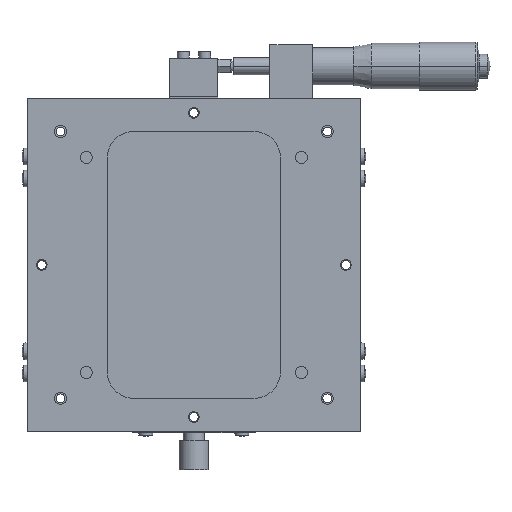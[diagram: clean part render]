
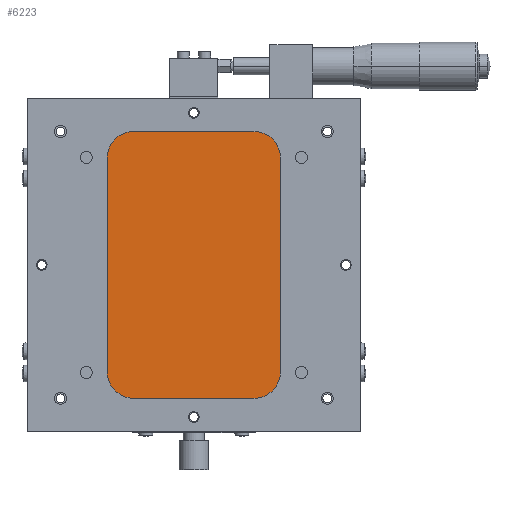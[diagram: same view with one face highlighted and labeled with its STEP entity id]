
A CAD part, front view. The second image highlights one B-rep face of the part: STEP entity #6223.
In plain terms, the highlighted planar face has unit normal (0, -1, 0).
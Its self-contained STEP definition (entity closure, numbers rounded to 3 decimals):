
#1539 = CARTESIAN_POINT ( 'NONE',  ( 32.5, 0.5, 40. ) ) ;
#1796 = DIRECTION ( 'NONE',  ( 0., 0., -1. ) ) ;
#1797 = VECTOR ( 'NONE', #1796, 1000. ) ;
#1798 = CARTESIAN_POINT ( 'NONE',  ( 32.5, 0.5, -40. ) ) ;
#1799 = LINE ( 'NONE', #1798, #1797 ) ;
#1873 = DIRECTION ( 'NONE',  ( 0., 0., 1. ) ) ;
#1874 = VECTOR ( 'NONE', #1873, 1000. ) ;
#1875 = CARTESIAN_POINT ( 'NONE',  ( -32.5, 0.5, -40. ) ) ;
#1876 = LINE ( 'NONE', #1875, #1874 ) ;
#1877 = CARTESIAN_POINT ( 'NONE',  ( -32.5, 0.5, 40. ) ) ;
#1878 = DIRECTION ( 'NONE',  ( 0., 0., 1. ) ) ;
#1879 = DIRECTION ( 'NONE',  ( 0., 1., 0. ) ) ;
#1880 = CARTESIAN_POINT ( 'NONE',  ( -22.5, 0.5, 40. ) ) ;
#1881 = AXIS2_PLACEMENT_3D ( 'NONE', #1880, #1879, #1878 ) ;
#1882 = CIRCLE ( 'NONE', #1881, 10. ) ;
#1883 = CARTESIAN_POINT ( 'NONE',  ( -22.5, 0.5, 50. ) ) ;
#1884 = DIRECTION ( 'NONE',  ( 1., 0., 0. ) ) ;
#1885 = VECTOR ( 'NONE', #1884, 1000. ) ;
#1886 = CARTESIAN_POINT ( 'NONE',  ( 22.5, 0.5, 50. ) ) ;
#1887 = LINE ( 'NONE', #1886, #1885 ) ;
#1888 = CARTESIAN_POINT ( 'NONE',  ( 22.5, 0.5, 50. ) ) ;
#1889 = DIRECTION ( 'NONE',  ( 0., 0., 1. ) ) ;
#1890 = DIRECTION ( 'NONE',  ( 0., 1., 0. ) ) ;
#1891 = CARTESIAN_POINT ( 'NONE',  ( 22.5, 0.5, 40. ) ) ;
#1892 = AXIS2_PLACEMENT_3D ( 'NONE', #1891, #1890, #1889 ) ;
#1893 = CIRCLE ( 'NONE', #1892, 10. ) ;
#1918 = CARTESIAN_POINT ( 'NONE',  ( 32.5, 0.5, -40. ) ) ;
#1919 = DIRECTION ( 'NONE',  ( 0., 0., 1. ) ) ;
#1920 = DIRECTION ( 'NONE',  ( 0., 1., 0. ) ) ;
#1921 = CARTESIAN_POINT ( 'NONE',  ( 22.5, 0.5, -40. ) ) ;
#1922 = AXIS2_PLACEMENT_3D ( 'NONE', #1921, #1920, #1919 ) ;
#1923 = CIRCLE ( 'NONE', #1922, 10. ) ;
#1924 = CARTESIAN_POINT ( 'NONE',  ( 22.5, 0.5, -50. ) ) ;
#1925 = DIRECTION ( 'NONE',  ( -1., 0., 0. ) ) ;
#1926 = VECTOR ( 'NONE', #1925, 1000. ) ;
#1927 = CARTESIAN_POINT ( 'NONE',  ( 22.5, 0.5, -50. ) ) ;
#1928 = LINE ( 'NONE', #1927, #1926 ) ;
#1929 = CARTESIAN_POINT ( 'NONE',  ( -32.5, 0.5, -40. ) ) ;
#1930 = CARTESIAN_POINT ( 'NONE',  ( -22.5, 0.5, -50. ) ) ;
#1931 = DIRECTION ( 'NONE',  ( 0., 0., 1. ) ) ;
#1932 = DIRECTION ( 'NONE',  ( 0., 1., 0. ) ) ;
#1933 = CARTESIAN_POINT ( 'NONE',  ( -22.5, 0.5, -40. ) ) ;
#1934 = AXIS2_PLACEMENT_3D ( 'NONE', #1933, #1932, #1931 ) ;
#1935 = CIRCLE ( 'NONE', #1934, 10. ) ;
#1936 = DIRECTION ( 'NONE',  ( 0., 0., 1. ) ) ;
#1937 = DIRECTION ( 'NONE',  ( 0., -1., 0. ) ) ;
#1938 = CARTESIAN_POINT ( 'NONE',  ( -22.5, 0.5, -40. ) ) ;
#1939 = AXIS2_PLACEMENT_3D ( 'NONE', #1938, #1937, #1936 ) ;
#1940 = PLANE ( 'NONE',  #1939 ) ;
#1941 = FACE_OUTER_BOUND ( 'NONE', #6224, .T. ) ;
#6095 = ORIENTED_EDGE ( 'NONE', *, *, #6180, .F. ) ;
#6096 = VERTEX_POINT ( 'NONE', #1539 ) ;
#6180 = EDGE_CURVE ( 'NONE', #6096, #6234, #1799, .T. ) ;
#6181 = ORIENTED_EDGE ( 'NONE', *, *, #6182, .F. ) ;
#6182 = EDGE_CURVE ( 'NONE', #6183, #6096, #1893, .T. ) ;
#6183 = VERTEX_POINT ( 'NONE', #1888 ) ;
#6184 = ORIENTED_EDGE ( 'NONE', *, *, #6185, .F. ) ;
#6185 = EDGE_CURVE ( 'NONE', #6186, #6183, #1887, .T. ) ;
#6186 = VERTEX_POINT ( 'NONE', #1883 ) ;
#6187 = ORIENTED_EDGE ( 'NONE', *, *, #6188, .F. ) ;
#6188 = EDGE_CURVE ( 'NONE', #6189, #6186, #1882, .T. ) ;
#6189 = VERTEX_POINT ( 'NONE', #1877 ) ;
#6190 = ORIENTED_EDGE ( 'NONE', *, *, #6191, .F. ) ;
#6191 = EDGE_CURVE ( 'NONE', #6228, #6189, #1876, .T. ) ;
#6223 = ADVANCED_FACE ( 'NONE', ( #1941 ), #1940, .T. ) ;
#6224 = EDGE_LOOP ( 'NONE', ( #6225, #6229, #6232, #6095, #6181, #6184, #6187, #6190 ) ) ;
#6225 = ORIENTED_EDGE ( 'NONE', *, *, #6226, .F. ) ;
#6226 = EDGE_CURVE ( 'NONE', #6227, #6228, #1935, .T. ) ;
#6227 = VERTEX_POINT ( 'NONE', #1930 ) ;
#6228 = VERTEX_POINT ( 'NONE', #1929 ) ;
#6229 = ORIENTED_EDGE ( 'NONE', *, *, #6230, .F. ) ;
#6230 = EDGE_CURVE ( 'NONE', #6231, #6227, #1928, .T. ) ;
#6231 = VERTEX_POINT ( 'NONE', #1924 ) ;
#6232 = ORIENTED_EDGE ( 'NONE', *, *, #6233, .F. ) ;
#6233 = EDGE_CURVE ( 'NONE', #6234, #6231, #1923, .T. ) ;
#6234 = VERTEX_POINT ( 'NONE', #1918 ) ;
